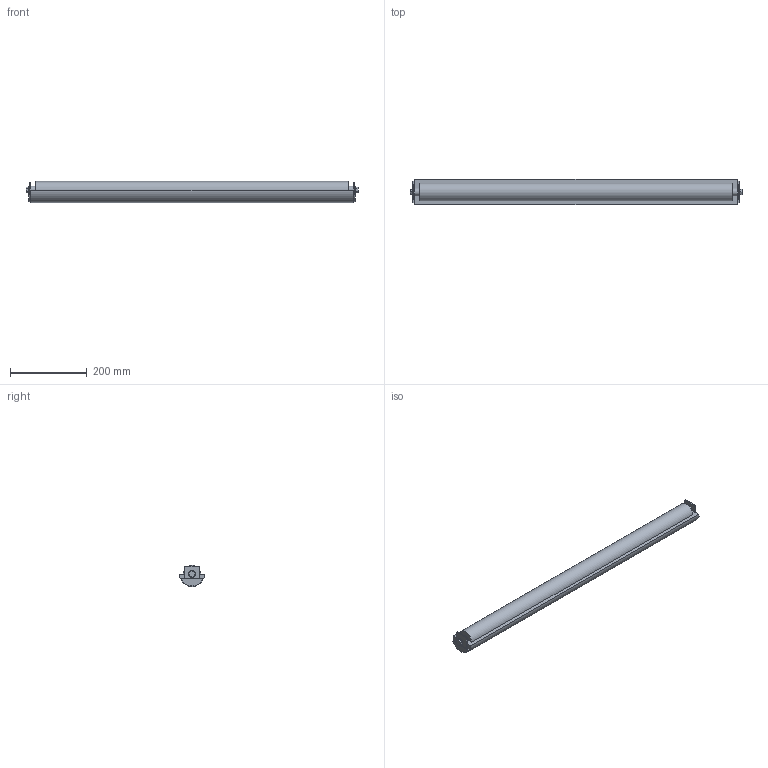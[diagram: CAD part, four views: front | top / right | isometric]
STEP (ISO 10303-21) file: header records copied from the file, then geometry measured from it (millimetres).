
FILE_DESCRIPTION (( 'STEP AP214' ), '1' );
FILE_NAME ('03.102I01.850.N FS-850-MTS2-100.INOX Idler section.STEP', '2025-02-11T11:30:56', ( '' ), ( '' ), 'SwSTEP 2.0', 'SolidWorks 2024', '' );
FILE_SCHEMA (( 'AUTOMOTIVE_DESIGN' ));
Length unit declared in the file: millimetre
Products named in the file (1): 03.102I01.850.N FS-850-MTS2-100.INOX Idler section
Bounding box: 862.8 x 65.4 x 55.2 mm (x, y, z)
Volume: 2074744.7 mm3; surface area: 174469.6 mm2
Topology: 1 solids, 1 shells, 64 faces, 164 edges, 108 vertices
Faces by surface type: plane 40, cylinder 24
Entity records: 1967 total; most frequent: DIRECTION 342, CARTESIAN_POINT 337, ORIENTED_EDGE 328, EDGE_CURVE 164, VECTOR 116, LINE 116, AXIS2_PLACEMENT_3D 113, VERTEX_POINT 108
